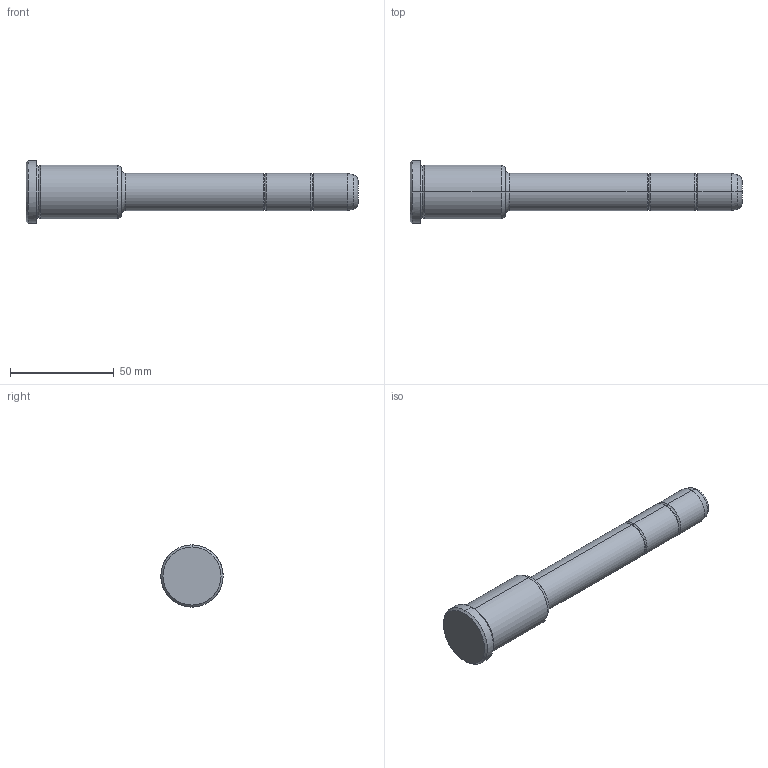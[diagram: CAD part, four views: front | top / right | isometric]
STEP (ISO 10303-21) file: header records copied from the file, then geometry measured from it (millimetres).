
FILE_DESCRIPTION(('CATIA V5 STEP Exchange'),'2;1');
FILE_NAME('C:\Users\Utente\Desktop\IO LAVORO\3D X SITO CF\X SITO\PLASTICA\351\351-18X46X160.stp','2021-08-19T12:35:15+00:00',('none'),('none'),'CATIA Version 5 Release 20 GA (IN-10)','CATIA V5 STEP AP203','none');
FILE_SCHEMA(('CONFIG_CONTROL_DESIGN'));
Length unit declared in the file: millimetre
Products named in the file (1): 351-18X46X160
Bounding box: 160 x 30 x 30 mm (x, y, z)
Volume: 53879.7 mm3; surface area: 11450.1 mm2
Topology: 1 solids, 1 shells, 36 faces, 102 edges, 70 vertices
Faces by surface type: torus 16, cylinder 10, cone 6, plane 4
Entity records: 1292 total; most frequent: CARTESIAN_POINT 321, ORIENTED_EDGE 204, DIRECTION 166, AXIS2_PLACEMENT_3D 115, EDGE_CURVE 102, CIRCLE 78, VERTEX_POINT 70, EDGE_LOOP 38
